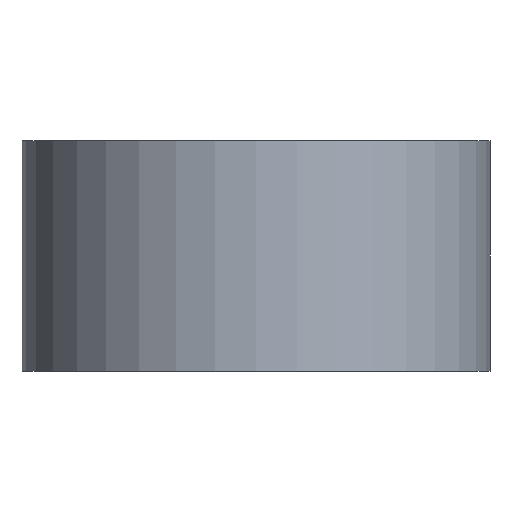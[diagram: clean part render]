
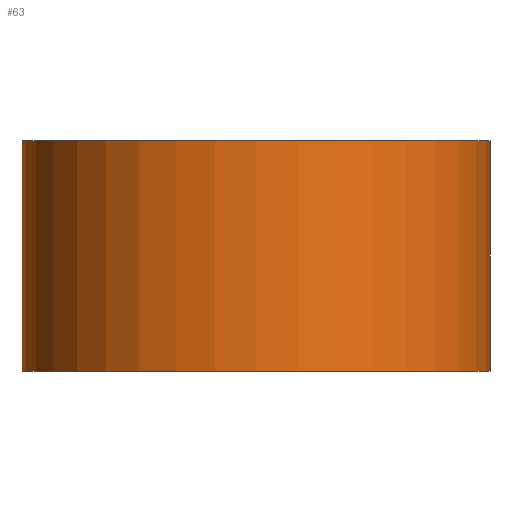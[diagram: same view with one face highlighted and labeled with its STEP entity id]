
A CAD part, front view. The second image highlights one B-rep face of the part: STEP entity #63.
In plain terms, the highlighted cylindrical face has radius 6.2 mm (diameter 12.4 mm), a partial arc.
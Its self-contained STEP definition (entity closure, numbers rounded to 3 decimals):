
#1 = ORIENTED_EDGE ( 'NONE', *, *, #231, .T. ) ;
#28 = VERTEX_POINT ( 'NONE', #135 ) ;
#47 = ORIENTED_EDGE ( 'NONE', *, *, #277, .F. ) ;
#63 = ADVANCED_FACE ( 'NONE', ( #176 ), #294, .T. ) ;
#73 = CARTESIAN_POINT ( 'NONE',  ( 6.2, 0., 1. ) ) ;
#112 = AXIS2_PLACEMENT_3D ( 'NONE', #317, #489, #446 ) ;
#116 = DIRECTION ( 'NONE',  ( 0., 0., -1. ) ) ;
#119 = ORIENTED_EDGE ( 'NONE', *, *, #480, .F. ) ;
#135 = CARTESIAN_POINT ( 'NONE',  ( 6.2, 0., -3.05 ) ) ;
#141 = DIRECTION ( 'NONE',  ( -1., 0., 0. ) ) ;
#146 = CARTESIAN_POINT ( 'NONE',  ( 0., 0., -3.05 ) ) ;
#148 = CARTESIAN_POINT ( 'NONE',  ( -6.2, 0., 3.05 ) ) ;
#172 = EDGE_CURVE ( 'NONE', #210, #28, #192, .T. ) ;
#176 = FACE_OUTER_BOUND ( 'NONE', #312, .T. ) ;
#192 = CIRCLE ( 'NONE', #496, 6.2 ) ;
#210 = VERTEX_POINT ( 'NONE', #235 ) ;
#227 = DIRECTION ( 'NONE',  ( 0., 0., 1. ) ) ;
#231 = EDGE_CURVE ( 'NONE', #272, #210, #271, .T. ) ;
#232 = CARTESIAN_POINT ( 'NONE',  ( 6.2, 0., 3.05 ) ) ;
#235 = CARTESIAN_POINT ( 'NONE',  ( -6.2, 0., -3.05 ) ) ;
#237 = DIRECTION ( 'NONE',  ( 1., 0., 0. ) ) ;
#238 = VERTEX_POINT ( 'NONE', #232 ) ;
#271 = LINE ( 'NONE', #311, #305 ) ;
#272 = VERTEX_POINT ( 'NONE', #148 ) ;
#273 = DIRECTION ( 'NONE',  ( 0., 0., -1. ) ) ;
#277 = EDGE_CURVE ( 'NONE', #272, #238, #325, .T. ) ;
#294 = CYLINDRICAL_SURFACE ( 'NONE', #384, 6.2 ) ;
#305 = VECTOR ( 'NONE', #273, 1000. ) ;
#311 = CARTESIAN_POINT ( 'NONE',  ( -6.2, 0., 1. ) ) ;
#312 = EDGE_LOOP ( 'NONE', ( #119, #47, #1, #390 ) ) ;
#317 = CARTESIAN_POINT ( 'NONE',  ( 0., 0., 3.05 ) ) ;
#325 = CIRCLE ( 'NONE', #112, 6.2 ) ;
#370 = VECTOR ( 'NONE', #116, 1000. ) ;
#384 = AXIS2_PLACEMENT_3D ( 'NONE', #465, #511, #141 ) ;
#390 = ORIENTED_EDGE ( 'NONE', *, *, #172, .T. ) ;
#440 = LINE ( 'NONE', #73, #370 ) ;
#446 = DIRECTION ( 'NONE',  ( 1., 0., 0. ) ) ;
#465 = CARTESIAN_POINT ( 'NONE',  ( 0., 0., 1. ) ) ;
#480 = EDGE_CURVE ( 'NONE', #238, #28, #440, .T. ) ;
#489 = DIRECTION ( 'NONE',  ( 0., 0., 1. ) ) ;
#496 = AXIS2_PLACEMENT_3D ( 'NONE', #146, #227, #237 ) ;
#511 = DIRECTION ( 'NONE',  ( 0., 0., -1. ) ) ;
